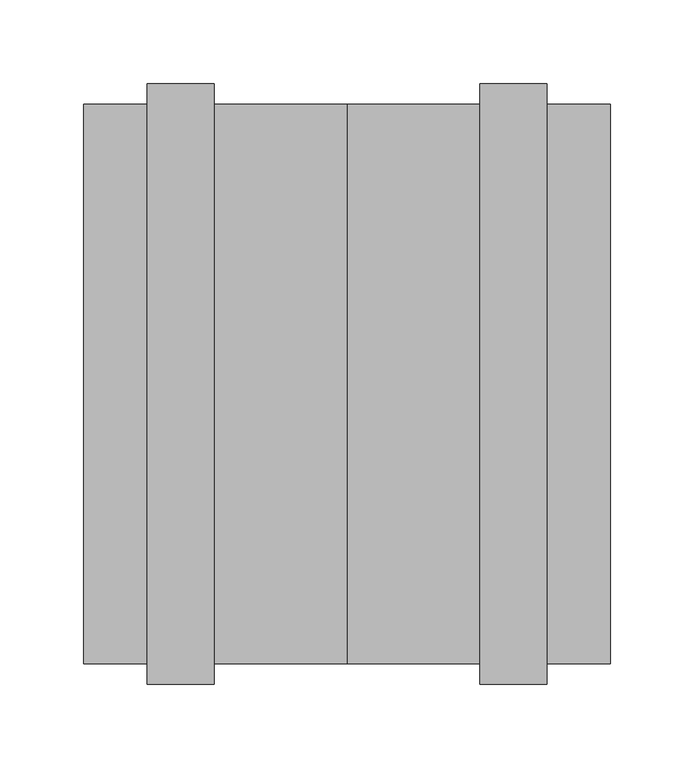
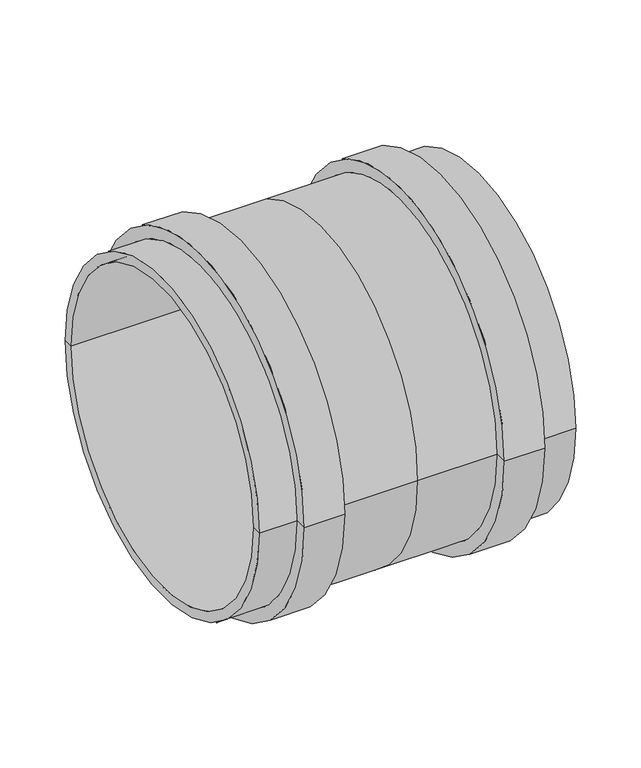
"""IFC4 building model written with IfcOpenShell, lengths in millimetres: pipe fitting geometry, OSMA_KG2000_PPKGMM : Spojka dvouhrdlá."""

from ifc_helpers import new_model, si_unit, frame, origin, place, context, project, spatial, polyline, circle_curve, source, transform, mapped, element, save
from ifc_brep_helpers import plane_surface, cylinder_surface, revolved_surface, advanced_brep


def pipe_fitting_ef0489c9(model_context):
    return source(origin(), model_context, "Body", "AdvancedBrep", [
        advanced_brep(
        [(-157.5, -157.5, 0.0), (-157.5, 157.5, 0.0), (-157.5, 167.2, 0.0), (-157.5, -167.2, 0.0), (-79.5, -179.5, 0.0), (-79.5, 179.5, 0.0), (-79.5, 167.2, 0.0), (-79.5, -167.2, 0.0), (-119.5, -179.5, 0.0), (-119.5, 179.5, 0.0), (-119.5, -167.2, 0.0), (-119.5, 167.2, 0.0), (0.0, 167.2, 0.0), (0.0, -167.2, 0.0), (119.5, -179.5, 0.0), (119.5, 179.5, 0.0), (119.5, 167.2, 0.0), (119.5, -167.2, 0.0), (79.5, -179.5, 0.0), (79.5, 179.5, 0.0), (79.5, -167.2, 0.0), (79.5, 167.2, 0.0), (157.5, 167.2, 0.0), (157.5, -167.2, 0.0), (157.5, 157.5, 0.0), (157.5, -157.5, 0.0), (0.0, -157.5, 0.0), (0.0, 157.5, 0.0)],
        [
            (0, 1, circle_curve(frame((-157.5, 0.0, 0.0), z_axis=(1.0, 0.0, 0.0), x_axis=(0.0, 1.0, 0.0)), 157.5)),
            (1, 2),
            (2, 3, circle_curve(frame((-157.5, 0.0, 0.0), z_axis=(-1.0, 0.0, 0.0), x_axis=(0.0, 1.0, 0.0)), 167.2)),
            (3, 0),
            (1, 0, circle_curve(frame((-157.5, 0.0, 0.0), z_axis=(1.0, 0.0, 0.0), x_axis=(0.0, 1.0, 0.0)), 157.5)),
            (3, 2, circle_curve(frame((-157.5, 0.0, 0.0), z_axis=(-1.0, 0.0, 0.0), x_axis=(0.0, 1.0, 0.0)), 167.2)),
            (4, 5, circle_curve(frame((-79.5, 0.0, 0.0), z_axis=(1.0, 0.0, 0.0), x_axis=(0.0, 1.0, 0.0)), 179.5)),
            (5, 6),
            (6, 7, circle_curve(frame((-79.5, 0.0, 0.0), z_axis=(-1.0, 0.0, 0.0), x_axis=(0.0, 1.0, 0.0)), 167.2)),
            (7, 4),
            (5, 4, circle_curve(frame((-79.5, 0.0, 0.0), z_axis=(1.0, 0.0, 0.0), x_axis=(0.0, 1.0, 0.0)), 179.5)),
            (7, 6, circle_curve(frame((-79.5, 0.0, 0.0), z_axis=(-1.0, 0.0, 0.0), x_axis=(0.0, 1.0, 0.0)), 167.2)),
            (4, 8),
            (8, 9, circle_curve(frame((-119.5, 0.0, 0.0), z_axis=(1.0, 0.0, 0.0), x_axis=(0.0, 1.0, 0.0)), 179.5)),
            (9, 5),
            (9, 8, circle_curve(frame((-119.5, 0.0, 0.0), z_axis=(1.0, 0.0, 0.0), x_axis=(0.0, 1.0, 0.0)), 179.5)),
            (8, 10),
            (10, 11, circle_curve(frame((-119.5, 0.0, 0.0), z_axis=(1.0, 0.0, 0.0), x_axis=(0.0, 1.0, 0.0)), 167.2)),
            (11, 9),
            (11, 10, circle_curve(frame((-119.5, 0.0, 0.0), z_axis=(1.0, 0.0, 0.0), x_axis=(0.0, 1.0, 0.0)), 167.2)),
            (2, 11),
            (10, 3),
            (6, 12),
            (12, 13, circle_curve(frame((0.0, 0.0, 0.0), z_axis=(-1.0, 0.0, 0.0), x_axis=(0.0, 1.0, 0.0)), 167.2)),
            (13, 7),
            (13, 12, circle_curve(frame((0.0, 0.0, 0.0), z_axis=(-1.0, 0.0, 0.0), x_axis=(0.0, 1.0, 0.0)), 167.2)),
            (14, 15, circle_curve(frame((119.5, 0.0, 0.0), z_axis=(1.0, 0.0, 0.0), x_axis=(0.0, 1.0, 0.0)), 179.5)),
            (15, 16),
            (16, 17, circle_curve(frame((119.5, 0.0, 0.0), z_axis=(-1.0, 0.0, 0.0), x_axis=(0.0, 1.0, 0.0)), 167.2)),
            (17, 14),
            (15, 14, circle_curve(frame((119.5, 0.0, 0.0), z_axis=(1.0, 0.0, 0.0), x_axis=(0.0, 1.0, 0.0)), 179.5)),
            (17, 16, circle_curve(frame((119.5, 0.0, 0.0), z_axis=(-1.0, 0.0, 0.0), x_axis=(0.0, 1.0, 0.0)), 167.2)),
            (14, 18),
            (18, 19, circle_curve(frame((79.5, 0.0, 0.0), z_axis=(1.0, 0.0, 0.0), x_axis=(0.0, 1.0, 0.0)), 179.5)),
            (19, 15),
            (19, 18, circle_curve(frame((79.5, 0.0, 0.0), z_axis=(1.0, 0.0, 0.0), x_axis=(0.0, 1.0, 0.0)), 179.5)),
            (18, 20),
            (20, 21, circle_curve(frame((79.5, 0.0, 0.0), z_axis=(1.0, 0.0, 0.0), x_axis=(0.0, 1.0, 0.0)), 167.2)),
            (21, 19),
            (21, 20, circle_curve(frame((79.5, 0.0, 0.0), z_axis=(1.0, 0.0, 0.0), x_axis=(0.0, 1.0, 0.0)), 167.2)),
            (20, 13),
            (12, 21),
            (16, 22),
            (22, 23, circle_curve(frame((157.5, 0.0, 0.0), z_axis=(-1.0, 0.0, 0.0), x_axis=(0.0, 1.0, 0.0)), 167.2)),
            (23, 17),
            (23, 22, circle_curve(frame((157.5, 0.0, 0.0), z_axis=(-1.0, 0.0, 0.0), x_axis=(0.0, 1.0, 0.0)), 167.2)),
            (22, 24),
            (24, 25, circle_curve(frame((157.5, 0.0, 0.0), z_axis=(-1.0, 0.0, 0.0), x_axis=(0.0, 1.0, 0.0)), 157.5)),
            (25, 23),
            (25, 24, circle_curve(frame((157.5, 0.0, 0.0), z_axis=(-1.0, 0.0, 0.0), x_axis=(0.0, 1.0, 0.0)), 157.5)),
            (0, 26),
            (26, 27, circle_curve(frame((0.0, 0.0, 0.0), z_axis=(1.0, 0.0, 0.0), x_axis=(0.0, 1.0, 0.0)), 157.5)),
            (27, 1),
            (27, 26, circle_curve(frame((0.0, 0.0, 0.0), z_axis=(1.0, 0.0, 0.0), x_axis=(0.0, 1.0, 0.0)), 157.5)),
            (24, 27),
            (26, 25),
        ],
        [
            plane_surface(frame((-157.5, 0.0, 0.0), z_axis=(-1.0, 0.0, 0.0), x_axis=(0.0, 1.0, 0.0))),
            plane_surface(frame((-79.5, 0.0, 0.0), z_axis=(1.0, 0.0, 0.0), x_axis=(0.0, 1.0, 0.0))),
            cylinder_surface(frame((358.0, 0.0, 0.0), z_axis=(-1.0, 0.0, 0.0), x_axis=(0.0, 1.0, 0.0)), 179.5),
            plane_surface(frame((-119.5, 0.0, 0.0), z_axis=(-1.0, 0.0, 0.0), x_axis=(0.0, 1.0, 0.0))),
            cylinder_surface(frame((358.0, 0.0, 0.0), z_axis=(-1.0, 0.0, 0.0), x_axis=(0.0, 1.0, 0.0)), 167.2),
            plane_surface(frame((119.5, 0.0, 0.0), z_axis=(1.0, 0.0, 0.0), x_axis=(0.0, 1.0, 0.0))),
            plane_surface(frame((79.5, 0.0, 0.0), z_axis=(-1.0, 0.0, 0.0), x_axis=(0.0, 1.0, 0.0))),
            plane_surface(frame((157.5, 0.0, 0.0), z_axis=(1.0, 0.0, 0.0), x_axis=(0.0, 1.0, 0.0))),
            revolved_surface(polyline([(-157.5, 157.5, 0.0), (0.0, 157.5, 0.0)]), (358.0, 0.0, 0.0), (-1.0, 0.0, 0.0)),
            revolved_surface(polyline([(0.0, 157.5, 0.0), (157.5, 157.5, 0.0)]), (358.0, 0.0, 0.0), (-1.0, 0.0, 0.0)),
        ],
        [
            (0, [[1, 2, 3, 4]]),
            (0, [[-2, 5, -4, 6]]),
            (1, [[7, 8, 9, 10]]),
            (1, [[-8, 11, -10, 12]]),
            (2, [[-7, 13, 14, 15]]),
            (2, [[-11, -15, 16, -13]]),
            (3, [[-14, 17, 18, 19]]),
            (3, [[-16, -19, 20, -17]]),
            (4, [[-3, 21, -18, 22]]),
            (4, [[-6, -22, -20, -21]]),
            (4, [[-9, 23, 24, 25]]),
            (4, [[-12, -25, 26, -23]]),
            (5, [[27, 28, 29, 30]]),
            (5, [[-28, 31, -30, 32]]),
            (2, [[-27, 33, 34, 35]]),
            (2, [[-31, -35, 36, -33]]),
            (6, [[-34, 37, 38, 39]]),
            (6, [[-36, -39, 40, -37]]),
            (4, [[-38, 41, -24, 42]]),
            (4, [[-40, -42, -26, -41]]),
            (4, [[-29, 43, 44, 45]]),
            (4, [[-32, -45, 46, -43]]),
            (7, [[-44, 47, 48, 49]]),
            (7, [[-46, -49, 50, -47]]),
            (8, [[-1, 51, 52, 53]]),
            (8, [[-5, -53, 54, -51]]),
            (9, [[-48, 55, -52, 56]]),
            (9, [[-50, -56, -54, -55]]),
        ],
    ),
    ])


if __name__ == "__main__":
    model = new_model("IFC4")
    model_context = context("Model", 3, world=origin())
    ifc_project = project(units=[si_unit("LENGTHUNIT", "METRE", prefix="MILLI")], contexts=[model_context])
    site = spatial("IfcSite", under=ifc_project)
    building = spatial("IfcBuilding", under=site)
    placement = place(None, origin())
    pipe_fitting_shape = pipe_fitting_ef0489c9(model_context)
    element("IfcPipeFitting", 1, ObjectType="OSMA_KG2000_PPKGMM : Spojka dvouhrdlá", at=placement, inside=building, context=model_context, shape_type="MappedRepresentation", body=[
        mapped(pipe_fitting_shape, transform((0.0, 0.0, 0.0), x_axis=(1.0, 0.0, 0.0), y_axis=(0.0, 1.0, 0.0), z_axis=(0.0, 0.0, 1.0))),
    ])
    save(model, "model.ifc")
